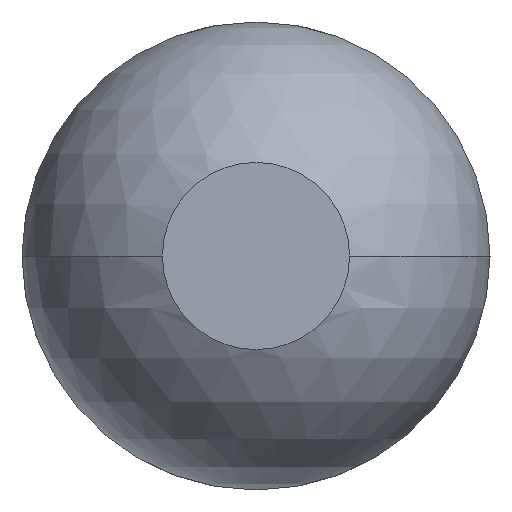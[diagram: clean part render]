
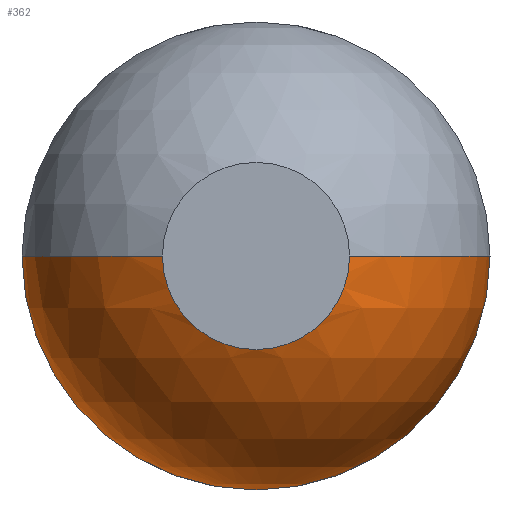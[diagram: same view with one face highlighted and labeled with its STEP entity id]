
A CAD part, left-side view. The second image highlights one B-rep face of the part: STEP entity #362.
In plain terms, the highlighted spherical face has radius 0.254 mm.
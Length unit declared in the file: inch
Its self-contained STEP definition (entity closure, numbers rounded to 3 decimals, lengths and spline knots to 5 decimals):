
#3 = DIRECTION ( 'NONE',  ( 0., 0., 1. ) ) ;
#24 = AXIS2_PLACEMENT_3D ( 'NONE', #294, #325, #31 ) ;
#30 = DIRECTION ( 'NONE',  ( -1., 0., 0. ) ) ;
#31 = DIRECTION ( 'NONE',  ( 0., 1., 0. ) ) ;
#32 = DIRECTION ( 'NONE',  ( -1., 0., 0. ) ) ;
#35 = CARTESIAN_POINT ( 'NONE',  ( 0., 0.004, 0. ) ) ;
#44 = CIRCLE ( 'NONE', #641, 0.01 ) ;
#49 = EDGE_CURVE ( 'NONE', #458, #239, #44, .T. ) ;
#51 = VERTEX_POINT ( 'NONE', #268 ) ;
#55 = DIRECTION ( 'NONE',  ( -1., 0., 0. ) ) ;
#56 = ORIENTED_EDGE ( 'NONE', *, *, #49, .T. ) ;
#85 = CARTESIAN_POINT ( 'NONE',  ( 0.00917, 0., 0. ) ) ;
#115 = AXIS2_PLACEMENT_3D ( 'NONE', #544, #259, #667 ) ;
#122 = CARTESIAN_POINT ( 'NONE',  ( 0.00917, -0.01, 0. ) ) ;
#145 = DIRECTION ( 'NONE',  ( 0., 0., 1. ) ) ;
#146 = EDGE_CURVE ( 'NONE', #463, #51, #745, .T. ) ;
#196 = EDGE_LOOP ( 'NONE', ( #56, #322, #280, #223, #611 ) ) ;
#223 = ORIENTED_EDGE ( 'NONE', *, *, #694, .F. ) ;
#236 = CIRCLE ( 'NONE', #543, 0.01 ) ;
#239 = VERTEX_POINT ( 'NONE', #122 ) ;
#240 = DIRECTION ( 'NONE',  ( 1., 0., 0. ) ) ;
#259 = DIRECTION ( 'NONE',  ( 0., 0., -1. ) ) ;
#268 = CARTESIAN_POINT ( 'NONE',  ( 0., -0.004, 0. ) ) ;
#277 = DIRECTION ( 'NONE',  ( 0., 0., 1. ) ) ;
#280 = ORIENTED_EDGE ( 'NONE', *, *, #146, .F. ) ;
#285 = VERTEX_POINT ( 'NONE', #654 ) ;
#294 = CARTESIAN_POINT ( 'NONE',  ( 0.00917, 0., 0. ) ) ;
#322 = ORIENTED_EDGE ( 'NONE', *, *, #516, .T. ) ;
#325 = DIRECTION ( 'NONE',  ( 0., 0., -1. ) ) ;
#346 = CARTESIAN_POINT ( 'NONE',  ( 0., 0., 0. ) ) ;
#362 = ADVANCED_FACE ( 'NONE', ( #722 ), #578, .T. ) ;
#375 = CIRCLE ( 'NONE', #115, 0.01 ) ;
#383 = DIRECTION ( 'NONE',  ( 0., 0., 1. ) ) ;
#458 = VERTEX_POINT ( 'NONE', #547 ) ;
#463 = VERTEX_POINT ( 'NONE', #35 ) ;
#485 = CARTESIAN_POINT ( 'NONE',  ( 0.00917, 0., 0. ) ) ;
#516 = EDGE_CURVE ( 'NONE', #239, #51, #375, .T. ) ;
#520 = CARTESIAN_POINT ( 'NONE',  ( 0.00917, 0., 0. ) ) ;
#543 = AXIS2_PLACEMENT_3D ( 'NONE', #485, #30, #383 ) ;
#544 = CARTESIAN_POINT ( 'NONE',  ( 0.00917, 0., 0. ) ) ;
#547 = CARTESIAN_POINT ( 'NONE',  ( 0.00917, 0., -0.01 ) ) ;
#578 = SPHERICAL_SURFACE ( 'NONE', #24, 0.01 ) ;
#594 = AXIS2_PLACEMENT_3D ( 'NONE', #520, #3, #240 ) ;
#605 = AXIS2_PLACEMENT_3D ( 'NONE', #346, #55, #277 ) ;
#611 = ORIENTED_EDGE ( 'NONE', *, *, #752, .T. ) ;
#641 = AXIS2_PLACEMENT_3D ( 'NONE', #85, #32, #145 ) ;
#654 = CARTESIAN_POINT ( 'NONE',  ( 0.00917, 0.01, 0. ) ) ;
#667 = DIRECTION ( 'NONE',  ( 0., 1., 0. ) ) ;
#694 = EDGE_CURVE ( 'NONE', #285, #463, #749, .T. ) ;
#722 = FACE_OUTER_BOUND ( 'NONE', #196, .T. ) ;
#745 = CIRCLE ( 'NONE', #605, 0.004 ) ;
#749 = CIRCLE ( 'NONE', #594, 0.01 ) ;
#752 = EDGE_CURVE ( 'NONE', #285, #458, #236, .T. ) ;
